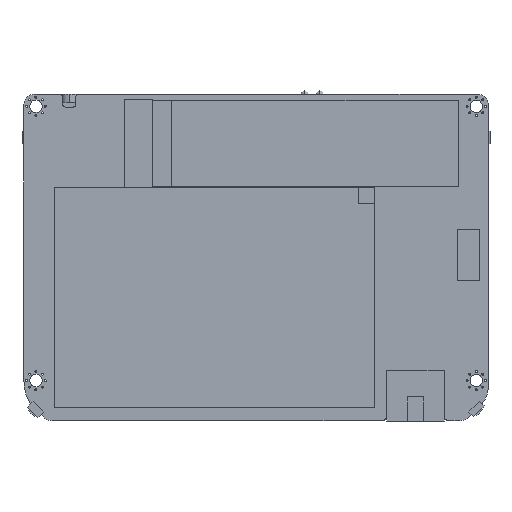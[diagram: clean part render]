
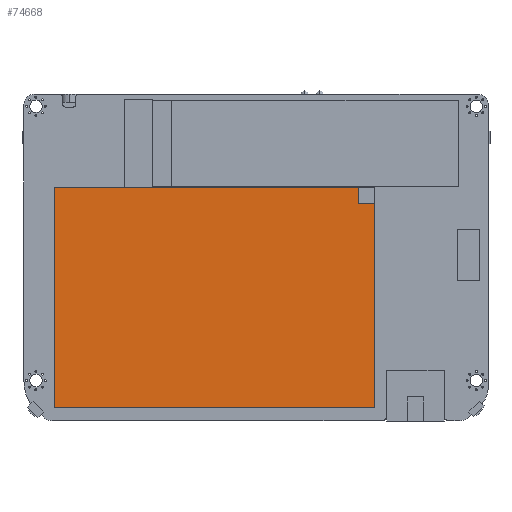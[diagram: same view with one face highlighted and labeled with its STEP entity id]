
A CAD part, front view. The second image highlights one B-rep face of the part: STEP entity #74668.
In plain terms, the highlighted planar face has unit normal (0, -1, 0).
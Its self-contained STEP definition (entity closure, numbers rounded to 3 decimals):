
#1019 = EDGE_CURVE ( 'NONE', #3383, #78384, #69448, .T. ) ;
#2223 = CARTESIAN_POINT ( 'NONE',  ( 29.59, -9., -37.47 ) ) ;
#2241 = DIRECTION ( 'NONE',  ( 0., 0., -1. ) ) ;
#3247 = DIRECTION ( 'NONE',  ( 1., 0., 0. ) ) ;
#3258 = EDGE_CURVE ( 'NONE', #64663, #70341, #69396, .T. ) ;
#3383 = VERTEX_POINT ( 'NONE', #58520 ) ;
#4115 = VECTOR ( 'NONE', #38329, 1000. ) ;
#8503 = FACE_OUTER_BOUND ( 'NONE', #67632, .T. ) ;
#9160 = CARTESIAN_POINT ( 'NONE',  ( 29.59, -9., -37.47 ) ) ;
#12493 = CARTESIAN_POINT ( 'NONE',  ( 25.59, -9., 17.53 ) ) ;
#12536 = LINE ( 'NONE', #53609, #71717 ) ;
#15483 = CARTESIAN_POINT ( 'NONE',  ( 29.59, -9., 17.53 ) ) ;
#20016 = ORIENTED_EDGE ( 'NONE', *, *, #57736, .F. ) ;
#22383 = ORIENTED_EDGE ( 'NONE', *, *, #47360, .T. ) ;
#25035 = VERTEX_POINT ( 'NONE', #45512 ) ;
#25258 = ORIENTED_EDGE ( 'NONE', *, *, #3258, .F. ) ;
#25473 = CARTESIAN_POINT ( 'NONE',  ( 29.59, -9., 17.53 ) ) ;
#26343 = EDGE_CURVE ( 'NONE', #25035, #3383, #12536, .T. ) ;
#38329 = DIRECTION ( 'NONE',  ( 1., 0., 0. ) ) ;
#40548 = VECTOR ( 'NONE', #45340, 1000. ) ;
#40694 = PLANE ( 'NONE',  #61006 ) ;
#40969 = CARTESIAN_POINT ( 'NONE',  ( -10.41, -9., -9.97 ) ) ;
#45340 = DIRECTION ( 'NONE',  ( 0., 0., -1. ) ) ;
#45512 = CARTESIAN_POINT ( 'NONE',  ( -50.41, -9., -37.47 ) ) ;
#47360 = EDGE_CURVE ( 'NONE', #64663, #78384, #52907, .T. ) ;
#48050 = DIRECTION ( 'NONE',  ( -1., 0., 0. ) ) ;
#49236 = CARTESIAN_POINT ( 'NONE',  ( 29.59, -9., 13.53 ) ) ;
#51350 = DIRECTION ( 'NONE',  ( 0., 0., 1. ) ) ;
#52274 = ORIENTED_EDGE ( 'NONE', *, *, #26343, .F. ) ;
#52907 = LINE ( 'NONE', #57626, #62116 ) ;
#53609 = CARTESIAN_POINT ( 'NONE',  ( -50.41, -9., 17.53 ) ) ;
#57626 = CARTESIAN_POINT ( 'NONE',  ( 25.59, -9., 13.53 ) ) ;
#57736 = EDGE_CURVE ( 'NONE', #70341, #66403, #84513, .T. ) ;
#58520 = CARTESIAN_POINT ( 'NONE',  ( -50.41, -9., 17.53 ) ) ;
#61006 = AXIS2_PLACEMENT_3D ( 'NONE', #40969, #66951, #2241 ) ;
#62116 = VECTOR ( 'NONE', #51350, 1000. ) ;
#63201 = ORIENTED_EDGE ( 'NONE', *, *, #75816, .F. ) ;
#64663 = VERTEX_POINT ( 'NONE', #75814 ) ;
#66403 = VERTEX_POINT ( 'NONE', #9160 ) ;
#66743 = ORIENTED_EDGE ( 'NONE', *, *, #1019, .F. ) ;
#66951 = DIRECTION ( 'NONE',  ( 0., 1., 0. ) ) ;
#67632 = EDGE_LOOP ( 'NONE', ( #25258, #22383, #66743, #52274, #63201, #20016 ) ) ;
#67864 = DIRECTION ( 'NONE',  ( 0., 0., 1. ) ) ;
#69396 = LINE ( 'NONE', #84052, #4115 ) ;
#69448 = LINE ( 'NONE', #15483, #73452 ) ;
#70341 = VERTEX_POINT ( 'NONE', #49236 ) ;
#71717 = VECTOR ( 'NONE', #67864, 1000. ) ;
#73452 = VECTOR ( 'NONE', #3247, 1000. ) ;
#74668 = ADVANCED_FACE ( 'NONE', ( #8503 ), #40694, .F. ) ;
#75814 = CARTESIAN_POINT ( 'NONE',  ( 25.59, -9., 13.53 ) ) ;
#75816 = EDGE_CURVE ( 'NONE', #66403, #25035, #81775, .T. ) ;
#77523 = VECTOR ( 'NONE', #48050, 1000. ) ;
#78384 = VERTEX_POINT ( 'NONE', #12493 ) ;
#81775 = LINE ( 'NONE', #2223, #77523 ) ;
#84052 = CARTESIAN_POINT ( 'NONE',  ( 29.59, -9., 13.53 ) ) ;
#84513 = LINE ( 'NONE', #25473, #40548 ) ;
